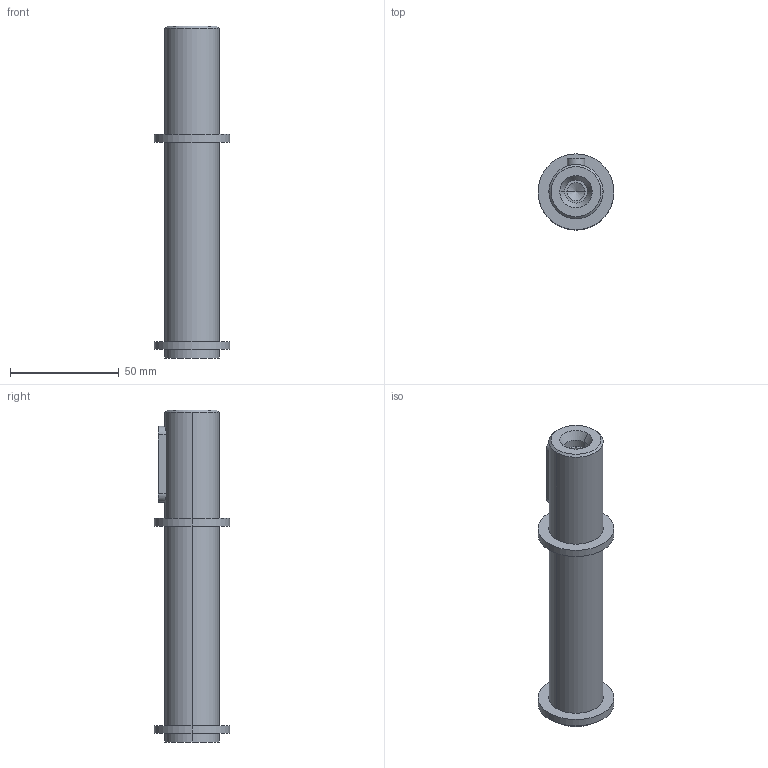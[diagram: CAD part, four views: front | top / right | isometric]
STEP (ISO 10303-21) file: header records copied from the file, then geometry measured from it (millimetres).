
FILE_DESCRIPTION(/* description */ (''),/* implementation_level */ '2;1');
FILE_NAME(/* name */ '6_ALBERO LENTO SEMPLICE NMRV050',/* time_stamp */ '2025-10-09T14:39:27+02:00',/* author */ (''),/* organization */ (''),/* preprocessor_version */ 'ST-DEVELOPER v19.2',/* originating_system */ 'Rhino 8.23',/* authorisation */ '');
FILE_SCHEMA (('CONFIG_CONTROL_DESIGN'));
Length unit declared in the file: millimetre
Products named in the file (2): Document; AL 050-25(1-1)
Bounding box: 35 x 35 x 153 mm (x, y, z)
Volume: 77131.7 mm3; surface area: 16142.7 mm2
Topology: 1 solids, 1 shells, 32 faces, 66 edges, 41 vertices
Faces by surface type: cylinder 16, plane 10, bspline 6
Entity records: 1110 total; most frequent: CARTESIAN_POINT 305, ORIENTED_EDGE 128, DIRECTION 102, EDGE_CURVE 64, AXIS2_PLACEMENT_3D 64, VERTEX_POINT 41, EDGE_LOOP 39, TRIMMED_CURVE 34
